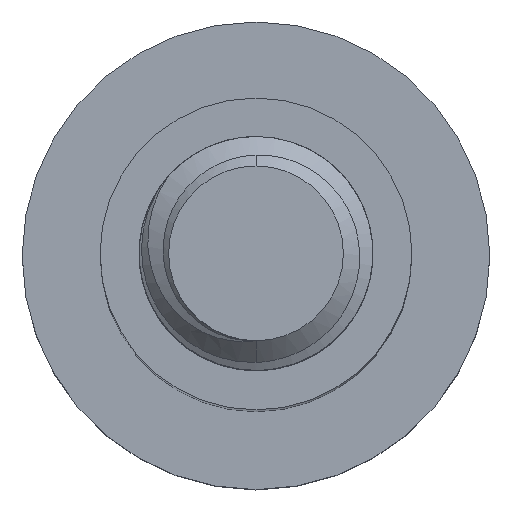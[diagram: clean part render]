
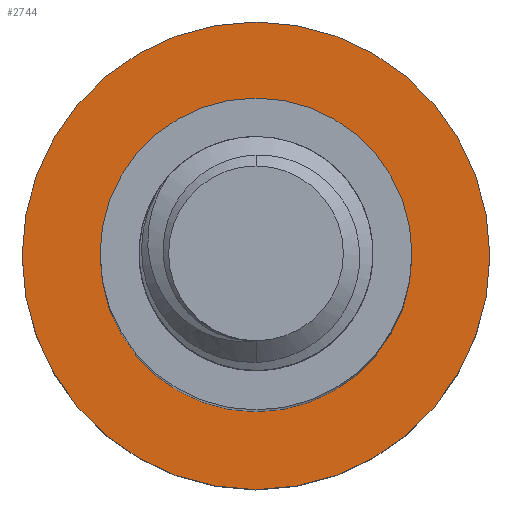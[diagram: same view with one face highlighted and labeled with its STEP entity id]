
A CAD part, top view. The second image highlights one B-rep face of the part: STEP entity #2744.
In plain terms, the highlighted planar face has unit normal (0, 0, 1).
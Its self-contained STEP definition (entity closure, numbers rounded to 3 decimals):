
#54 = AXIS2_PLACEMENT_3D ( 'NONE', #4204, #338, #4714 ) ;
#151 = CARTESIAN_POINT ( 'NONE',  ( 0., 0., -55. ) ) ;
#338 = DIRECTION ( 'NONE',  ( 0., 0., -1. ) ) ;
#365 = VERTEX_POINT ( 'NONE', #2633 ) ;
#572 = DIRECTION ( 'NONE',  ( -1., 0., 0. ) ) ;
#643 = EDGE_CURVE ( 'NONE', #365, #2905, #3389, .T. ) ;
#664 = CIRCLE ( 'NONE', #3824, 8. ) ;
#810 = AXIS2_PLACEMENT_3D ( 'NONE', #1426, #2334, #2355 ) ;
#830 = ORIENTED_EDGE ( 'NONE', *, *, #4244, .T. ) ;
#835 = DIRECTION ( 'NONE',  ( 0., 0., -1. ) ) ;
#1011 = DIRECTION ( 'NONE',  ( 0., 0., -1. ) ) ;
#1178 = FACE_OUTER_BOUND ( 'NONE', #4259, .T. ) ;
#1201 = EDGE_CURVE ( 'NONE', #2081, #1692, #2306, .T. ) ;
#1426 = CARTESIAN_POINT ( 'NONE',  ( 0., 0., -55. ) ) ;
#1567 = ORIENTED_EDGE ( 'NONE', *, *, #643, .F. ) ;
#1647 = AXIS2_PLACEMENT_3D ( 'NONE', #3127, #835, #2835 ) ;
#1692 = VERTEX_POINT ( 'NONE', #3111 ) ;
#2081 = VERTEX_POINT ( 'NONE', #2603 ) ;
#2091 = ORIENTED_EDGE ( 'NONE', *, *, #2206, .F. ) ;
#2119 = CARTESIAN_POINT ( 'NONE',  ( 12., 0., -55. ) ) ;
#2195 = EDGE_LOOP ( 'NONE', ( #830, #4089 ) ) ;
#2206 = EDGE_CURVE ( 'NONE', #2905, #365, #3305, .T. ) ;
#2306 = CIRCLE ( 'NONE', #54, 8. ) ;
#2334 = DIRECTION ( 'NONE',  ( 0., 0., -1. ) ) ;
#2355 = DIRECTION ( 'NONE',  ( -1., 0., 0. ) ) ;
#2570 = DIRECTION ( 'NONE',  ( -1., 0., 0. ) ) ;
#2603 = CARTESIAN_POINT ( 'NONE',  ( 8., 0., -55. ) ) ;
#2633 = CARTESIAN_POINT ( 'NONE',  ( -12., 0., -55. ) ) ;
#2721 = FACE_BOUND ( 'NONE', #2195, .T. ) ;
#2744 = ADVANCED_FACE ( 'NONE', ( #2721, #1178 ), #2771, .F. ) ;
#2771 = PLANE ( 'NONE',  #810 ) ;
#2835 = DIRECTION ( 'NONE',  ( -1., 0., 0. ) ) ;
#2905 = VERTEX_POINT ( 'NONE', #2119 ) ;
#3111 = CARTESIAN_POINT ( 'NONE',  ( -8., 0., -55. ) ) ;
#3127 = CARTESIAN_POINT ( 'NONE',  ( 0., 0., -55. ) ) ;
#3295 = DIRECTION ( 'NONE',  ( 0., 0., -1. ) ) ;
#3305 = CIRCLE ( 'NONE', #1647, 12. ) ;
#3389 = CIRCLE ( 'NONE', #4138, 12. ) ;
#3637 = CARTESIAN_POINT ( 'NONE',  ( 0., 0., -55. ) ) ;
#3824 = AXIS2_PLACEMENT_3D ( 'NONE', #3637, #3295, #2570 ) ;
#4089 = ORIENTED_EDGE ( 'NONE', *, *, #1201, .T. ) ;
#4138 = AXIS2_PLACEMENT_3D ( 'NONE', #151, #1011, #572 ) ;
#4204 = CARTESIAN_POINT ( 'NONE',  ( 0., 0., -55. ) ) ;
#4244 = EDGE_CURVE ( 'NONE', #1692, #2081, #664, .T. ) ;
#4259 = EDGE_LOOP ( 'NONE', ( #2091, #1567 ) ) ;
#4714 = DIRECTION ( 'NONE',  ( -1., 0., 0. ) ) ;
